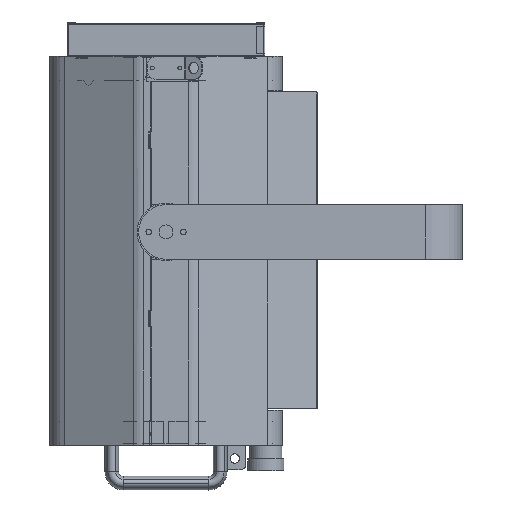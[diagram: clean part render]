
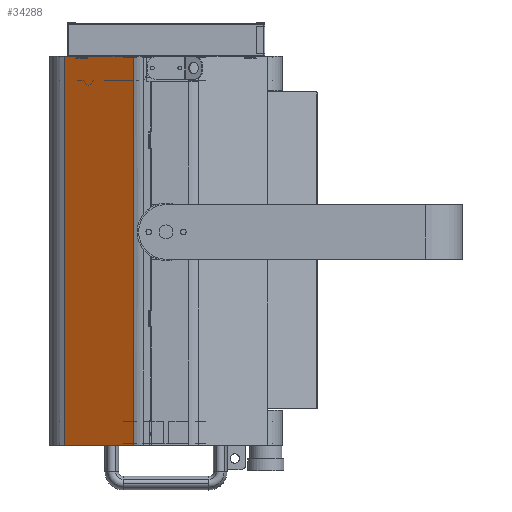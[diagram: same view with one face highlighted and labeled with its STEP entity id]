
A CAD part, left-side view. The second image highlights one B-rep face of the part: STEP entity #34288.
In plain terms, the highlighted planar face has unit normal (-0.866, 0.5, 0).
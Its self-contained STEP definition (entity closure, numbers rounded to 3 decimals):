
#37 = LINE ( 'NONE', #86171, #6147 ) ;
#262 = CARTESIAN_POINT ( 'NONE',  ( -89.951, 99.101, 190.73 ) ) ;
#700 = DIRECTION ( 'NONE',  ( -0.5, -0.866, 0. ) ) ;
#2011 = CARTESIAN_POINT ( 'NONE',  ( -82.951, 111.225, -234.27 ) ) ;
#2362 = VECTOR ( 'NONE', #22151, 1000. ) ;
#6147 = VECTOR ( 'NONE', #66427, 1000. ) ;
#6795 = CARTESIAN_POINT ( 'NONE',  ( -82.951, 111.225, 192.73 ) ) ;
#7767 = DIRECTION ( 'NONE',  ( 0., 0., 1. ) ) ;
#8445 = CARTESIAN_POINT ( 'NONE',  ( -89.951, 99.101, 192.73 ) ) ;
#11407 = EDGE_CURVE ( 'NONE', #62621, #52363, #27134, .T. ) ;
#12563 = VERTEX_POINT ( 'NONE', #40773 ) ;
#15725 = ORIENTED_EDGE ( 'NONE', *, *, #11407, .F. ) ;
#15751 = DIRECTION ( 'NONE',  ( 0., 0., 1. ) ) ;
#16779 = VERTEX_POINT ( 'NONE', #43918 ) ;
#16948 = DIRECTION ( 'NONE',  ( -0.866, 0.5, 0. ) ) ;
#19644 = ORIENTED_EDGE ( 'NONE', *, *, #45564, .F. ) ;
#22151 = DIRECTION ( 'NONE',  ( -0.5, -0.866, 0. ) ) ;
#22668 = FACE_OUTER_BOUND ( 'NONE', #61868, .T. ) ;
#23658 = LINE ( 'NONE', #76821, #30072 ) ;
#23830 = VECTOR ( 'NONE', #57433, 1000. ) ;
#25580 = ORIENTED_EDGE ( 'NONE', *, *, #41841, .F. ) ;
#27134 = LINE ( 'NONE', #67980, #70222 ) ;
#27823 = LINE ( 'NONE', #8445, #72696 ) ;
#30072 = VECTOR ( 'NONE', #15751, 1000. ) ;
#33181 = LINE ( 'NONE', #6795, #49991 ) ;
#34288 = ADVANCED_FACE ( 'NONE', ( #22668 ), #69258, .T. ) ;
#34693 = EDGE_CURVE ( 'NONE', #52363, #42758, #33181, .T. ) ;
#35239 = DIRECTION ( 'NONE',  ( 0., 0., -1. ) ) ;
#35883 = EDGE_CURVE ( 'NONE', #62621, #71998, #49817, .T. ) ;
#37923 = EDGE_CURVE ( 'NONE', #42758, #12563, #27823, .T. ) ;
#39270 = CARTESIAN_POINT ( 'NONE',  ( -126.457, 35.87, -234.27 ) ) ;
#40309 = VECTOR ( 'NONE', #700, 1000. ) ;
#40773 = CARTESIAN_POINT ( 'NONE',  ( -89.951, 99.101, 190.73 ) ) ;
#41486 = ORIENTED_EDGE ( 'NONE', *, *, #49829, .T. ) ;
#41841 = EDGE_CURVE ( 'NONE', #12563, #16779, #45568, .T. ) ;
#42758 = VERTEX_POINT ( 'NONE', #45350 ) ;
#43635 = CARTESIAN_POINT ( 'NONE',  ( -82.951, 111.225, -234.27 ) ) ;
#43886 = ORIENTED_EDGE ( 'NONE', *, *, #57137, .F. ) ;
#43918 = CARTESIAN_POINT ( 'NONE',  ( -97.451, 86.11, 190.73 ) ) ;
#44162 = DIRECTION ( 'NONE',  ( -0.5, -0.866, 0. ) ) ;
#44615 = CARTESIAN_POINT ( 'NONE',  ( -97.451, 86.11, 192.73 ) ) ;
#45350 = CARTESIAN_POINT ( 'NONE',  ( -89.951, 99.101, 192.73 ) ) ;
#45564 = EDGE_CURVE ( 'NONE', #16779, #48591, #71492, .T. ) ;
#45568 = LINE ( 'NONE', #262, #40309 ) ;
#48591 = VERTEX_POINT ( 'NONE', #44615 ) ;
#49817 = LINE ( 'NONE', #43635, #2362 ) ;
#49829 = EDGE_CURVE ( 'NONE', #71998, #61931, #23658, .T. ) ;
#49991 = VECTOR ( 'NONE', #81441, 1000. ) ;
#52363 = VERTEX_POINT ( 'NONE', #61365 ) ;
#57137 = EDGE_CURVE ( 'NONE', #48591, #61931, #37, .T. ) ;
#57433 = DIRECTION ( 'NONE',  ( 0., 0., 1. ) ) ;
#60734 = ORIENTED_EDGE ( 'NONE', *, *, #37923, .F. ) ;
#61365 = CARTESIAN_POINT ( 'NONE',  ( -82.951, 111.225, 192.73 ) ) ;
#61868 = EDGE_LOOP ( 'NONE', ( #19644, #25580, #60734, #85826, #15725, #81807, #41486, #43886 ) ) ;
#61931 = VERTEX_POINT ( 'NONE', #87003 ) ;
#62621 = VERTEX_POINT ( 'NONE', #80095 ) ;
#66427 = DIRECTION ( 'NONE',  ( -0.5, -0.866, 0. ) ) ;
#67980 = CARTESIAN_POINT ( 'NONE',  ( -82.951, 111.225, -234.27 ) ) ;
#68184 = AXIS2_PLACEMENT_3D ( 'NONE', #2011, #16948, #44162 ) ;
#69258 = PLANE ( 'NONE',  #68184 ) ;
#70222 = VECTOR ( 'NONE', #7767, 1000. ) ;
#71492 = LINE ( 'NONE', #78486, #23830 ) ;
#71998 = VERTEX_POINT ( 'NONE', #39270 ) ;
#72696 = VECTOR ( 'NONE', #35239, 1000. ) ;
#76821 = CARTESIAN_POINT ( 'NONE',  ( -126.457, 35.87, -234.27 ) ) ;
#78486 = CARTESIAN_POINT ( 'NONE',  ( -97.451, 86.11, 192.73 ) ) ;
#80095 = CARTESIAN_POINT ( 'NONE',  ( -82.951, 111.225, -234.27 ) ) ;
#81441 = DIRECTION ( 'NONE',  ( -0.5, -0.866, 0. ) ) ;
#81807 = ORIENTED_EDGE ( 'NONE', *, *, #35883, .T. ) ;
#85826 = ORIENTED_EDGE ( 'NONE', *, *, #34693, .F. ) ;
#86171 = CARTESIAN_POINT ( 'NONE',  ( -82.951, 111.225, 192.73 ) ) ;
#87003 = CARTESIAN_POINT ( 'NONE',  ( -126.457, 35.87, 192.73 ) ) ;
